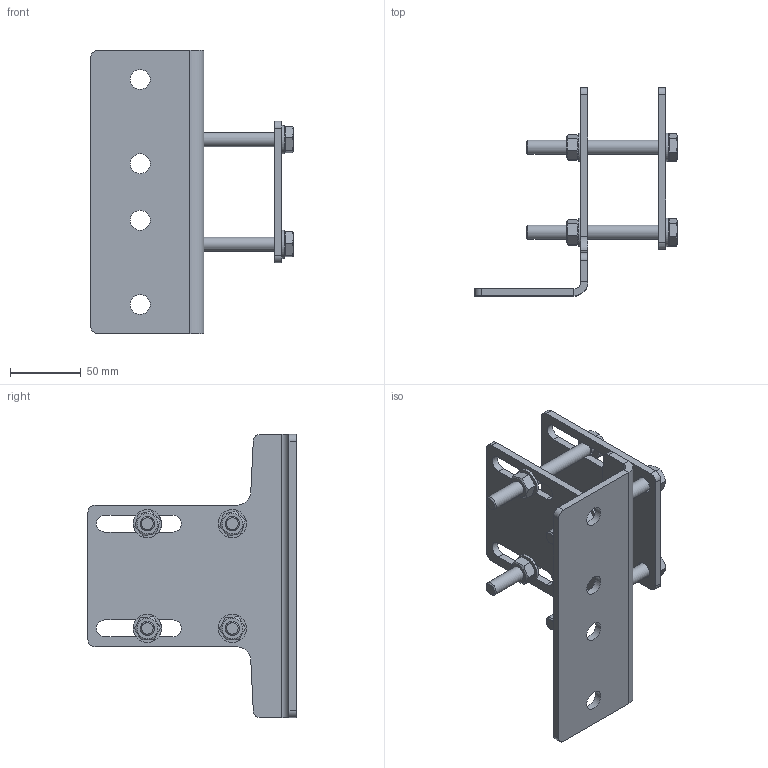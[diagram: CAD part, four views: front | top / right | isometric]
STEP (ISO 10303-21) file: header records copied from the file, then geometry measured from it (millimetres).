
FILE_DESCRIPTION(/* description */ (''),/* implementation_level */ '2;1');
FILE_NAME(/* name */ 'D:\VDV Techniek\Documents\Inventor\_ISP_Products\UDG on SquareTube\UDG SquareTube Clamped\STP\Square tube 50mm-out-Mounting bracket.stp',/* time_stamp */ '2022-12-29T15:44:22+01:00',/* author */ ('jos'),/* organization */ (''),/* preprocessor_version */ 'ST-DEVELOPER v15.2',/* originating_system */ 'Autodesk Inventor 2014',/* authorisation */ '');
FILE_SCHEMA (('AUTOMOTIVE_DESIGN { 1 0 10303 214 3 1 1 }'));
Length unit declared in the file: millimetre
Products named in the file (6): UDG_Mounting_Bracket_universal_HDG; UDG_Counter_Plate_universal_HDG; ISO 4032 - M10DIN EN; DIN 126 - 11; DIN 933 - M10  x 100; Square tube 50mm-out-Mounting bracket
Assembly tree (18 placements, depth 2):
  Square tube 50mm-out-Mounting bracket
    UDG_Mounting_Bracket_universal_HDG
    UDG_Counter_Plate_universal_HDG
    ISO 4032 - M10DIN EN  x4
    DIN 126 - 11  x8
    DIN 933 - M10  x 100  x4
Bounding box: 143.1 x 147 x 200 mm (x, y, z)
Volume: 244482.4 mm3; surface area: 114519.3 mm2
Topology: 18 solids, 18 shells, 228 faces, 504 edges, 320 vertices
Faces by surface type: plane 118, cylinder 62, cone 48
Full cylindrical faces by diameter (mm): 8.376 x4, 9.188 x4, 10 x4, 11 x8, 12 x4, 14 x4, 15.4 x4, 20 x8
Entity records: 3034 total; most frequent: CARTESIAN_POINT 538, DIRECTION 520, ORIENTED_EDGE 434, EDGE_CURVE 217, AXIS2_PLACEMENT_3D 205, VERTEX_POINT 151, EDGE_LOOP 148, LINE 110
